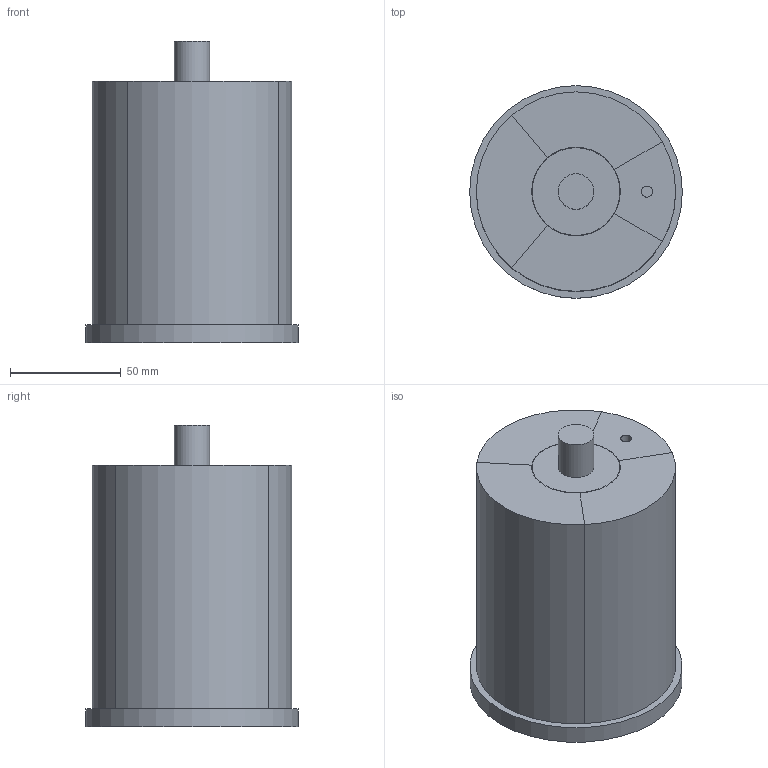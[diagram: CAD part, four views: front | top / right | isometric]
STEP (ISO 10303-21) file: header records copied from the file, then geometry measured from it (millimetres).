
FILE_DESCRIPTION(('Open CASCADE Model'),'2;1');
FILE_NAME('Open CASCADE Shape Model','2026-07-10T11:15:10',('Author'),( 'Open CASCADE'),'Open CASCADE STEP processor 7.9','Open CASCADE 7.9' ,'Unknown');
FILE_SCHEMA(('AUTOMOTIVE_DESIGN { 1 0 10303 214 1 1 1 1 }'));
Length unit declared in the file: millimetre
Products named in the file (7): 9d08ff68-7c50-11f1-bc49-02fc00000001; keystone; segment1; segment2; segment3; center_key; base
Assembly tree (6 placements, depth 2):
  9d08ff68-7c50-11f1-bc49-02fc00000001
    keystone
    segment1
    segment2
    segment3
    center_key
    base
Bounding box: 96 x 96 x 136 mm (x, y, z)
Volume: 739225.9 mm3; surface area: 110342.2 mm2
Topology: 6 solids, 6 shells, 38 faces, 66 edges, 44 vertices
Faces by surface type: plane 24, cylinder 9, cone 5
Full cylindrical faces by diameter (mm): 5 x1, 16 x1, 24 x1, 90 x1, 96 x1
Entity records: 1905 total; most frequent: CARTESIAN_POINT 365, DIRECTION 263, ORIENTED_EDGE 132, PCURVE 132, DEFINITIONAL_REPRESENTATION 132, LINE 94, VECTOR 94, AXIS2_PLACEMENT_3D 73
